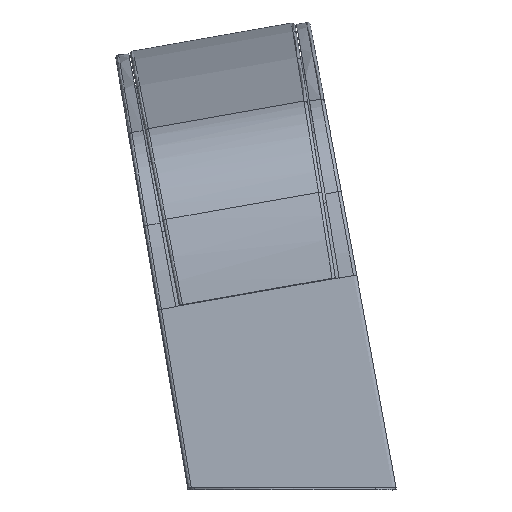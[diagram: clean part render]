
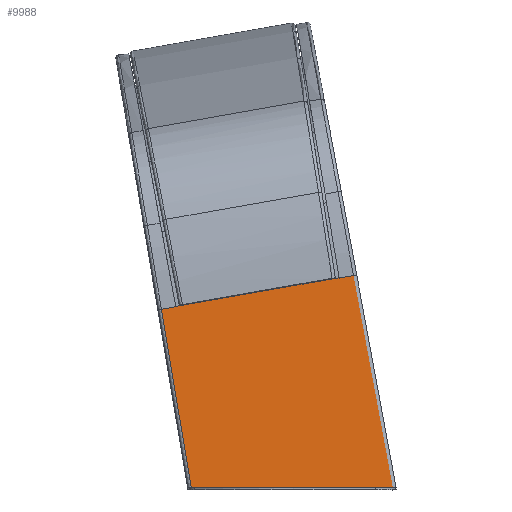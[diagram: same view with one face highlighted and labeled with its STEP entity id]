
A CAD part, top view. The second image highlights one B-rep face of the part: STEP entity #9988.
In plain terms, the highlighted planar face has unit normal (-0.008, 0.043, 0.999) as drawn and (0, 0.044, 0.999) by its records, which use the part's own axes.
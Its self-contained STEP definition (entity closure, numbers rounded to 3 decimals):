
#322 = DIRECTION ( 'NONE',  ( 0., 0.999, -0.044 ) ) ;
#463 = ORIENTED_EDGE ( 'NONE', *, *, #1201, .F. ) ;
#495 = CARTESIAN_POINT ( 'NONE',  ( -9.026, 20., 68.127 ) ) ;
#557 = VERTEX_POINT ( 'NONE', #3251 ) ;
#900 = LINE ( 'NONE', #15717, #7027 ) ;
#1021 = VECTOR ( 'NONE', #11669, 1000. ) ;
#1201 = EDGE_CURVE ( 'NONE', #2249, #2593, #12194, .T. ) ;
#1476 = EDGE_CURVE ( 'NONE', #12289, #13318, #14546, .T. ) ;
#2058 = DIRECTION ( 'NONE',  ( 0., 0.044, 0.999 ) ) ;
#2126 = CARTESIAN_POINT ( 'NONE',  ( 9.026, 20., 68.127 ) ) ;
#2249 = VERTEX_POINT ( 'NONE', #16339 ) ;
#2510 = EDGE_CURVE ( 'NONE', #13318, #5090, #900, .T. ) ;
#2593 = VERTEX_POINT ( 'NONE', #11046 ) ;
#2953 = LINE ( 'NONE', #6347, #6001 ) ;
#3141 = DIRECTION ( 'NONE',  ( -1., 0., 0. ) ) ;
#3251 = CARTESIAN_POINT ( 'NONE',  ( -9.025, 20., 68.127 ) ) ;
#3305 = ORIENTED_EDGE ( 'NONE', *, *, #13971, .F. ) ;
#3806 = DIRECTION ( 'NONE',  ( 1., 0., 0. ) ) ;
#4524 = VECTOR ( 'NONE', #11148, 1000. ) ;
#5090 = VERTEX_POINT ( 'NONE', #18183 ) ;
#5595 = VECTOR ( 'NONE', #10879, 1000. ) ;
#5967 = ORIENTED_EDGE ( 'NONE', *, *, #6485, .T. ) ;
#6001 = VECTOR ( 'NONE', #15293, 1000. ) ;
#6316 = PLANE ( 'NONE',  #16164 ) ;
#6347 = CARTESIAN_POINT ( 'NONE',  ( -8.926, 3.249, 68.858 ) ) ;
#6485 = EDGE_CURVE ( 'NONE', #9734, #15408, #13778, .T. ) ;
#6488 = CARTESIAN_POINT ( 'NONE',  ( -7.675, 20., 68.127 ) ) ;
#6569 = B_SPLINE_CURVE_WITH_KNOTS ( 'NONE', 3,
 ( #9721, #14320, #6621, #14181 ),
 .UNSPECIFIED., .F., .F.,
 ( 4, 4 ),
 ( 0., 0. ),
 .UNSPECIFIED. ) ;
#6621 = CARTESIAN_POINT ( 'NONE',  ( -9.026, 20., 68.127 ) ) ;
#6922 = ORIENTED_EDGE ( 'NONE', *, *, #13181, .T. ) ;
#7027 = VECTOR ( 'NONE', #3806, 1000. ) ;
#7643 = EDGE_CURVE ( 'NONE', #19231, #2593, #2953, .T. ) ;
#8636 = VECTOR ( 'NONE', #3141, 1000. ) ;
#8718 = CARTESIAN_POINT ( 'NONE',  ( 7.526, 3.007, 68.869 ) ) ;
#8834 = EDGE_CURVE ( 'NONE', #10731, #557, #6569, .T. ) ;
#8872 = DIRECTION ( 'NONE',  ( 0.009, -0.999, 0.044 ) ) ;
#8944 = EDGE_LOOP ( 'NONE', ( #14557, #463, #18187, #5967, #6922, #17269, #16377, #14290, #12946, #3305 ) ) ;
#9022 = LINE ( 'NONE', #12539, #4524 ) ;
#9721 = CARTESIAN_POINT ( 'NONE',  ( -9.026, 20., 68.127 ) ) ;
#9734 = VERTEX_POINT ( 'NONE', #19369 ) ;
#9885 = CARTESIAN_POINT ( 'NONE',  ( 9.026, 20., 68.127 ) ) ;
#9988 = ADVANCED_FACE ( 'NONE', ( #13305 ), #6316, .T. ) ;
#10318 = CARTESIAN_POINT ( 'NONE',  ( 9.199, 0.163, 68.993 ) ) ;
#10731 = VERTEX_POINT ( 'NONE', #495 ) ;
#10879 = DIRECTION ( 'NONE',  ( -0.009, 0.999, -0.044 ) ) ;
#11046 = CARTESIAN_POINT ( 'NONE',  ( 9.2, 0.053, 68.998 ) ) ;
#11148 = DIRECTION ( 'NONE',  ( 0.009, 0.999, -0.044 ) ) ;
#11669 = DIRECTION ( 'NONE',  ( 0.009, 0.999, -0.044 ) ) ;
#12076 = CARTESIAN_POINT ( 'NONE',  ( 7.675, 20., 68.127 ) ) ;
#12194 = LINE ( 'NONE', #10318, #19493 ) ;
#12289 = VERTEX_POINT ( 'NONE', #6488 ) ;
#12503 = CARTESIAN_POINT ( 'NONE',  ( -9.5, 0., 69. ) ) ;
#12539 = CARTESIAN_POINT ( 'NONE',  ( -9.2, -0.003, 69. ) ) ;
#12641 = CARTESIAN_POINT ( 'NONE',  ( 9.026, 20., 68.127 ) ) ;
#12946 = ORIENTED_EDGE ( 'NONE', *, *, #8834, .F. ) ;
#13026 = LINE ( 'NONE', #8718, #1021 ) ;
#13181 = EDGE_CURVE ( 'NONE', #15408, #5090, #13026, .T. ) ;
#13305 = FACE_OUTER_BOUND ( 'NONE', #8944, .T. ) ;
#13318 = VERTEX_POINT ( 'NONE', #16131 ) ;
#13778 = LINE ( 'NONE', #16628, #8636 ) ;
#13971 = EDGE_CURVE ( 'NONE', #19231, #10731, #9022, .T. ) ;
#14041 = CARTESIAN_POINT ( 'NONE',  ( -7.676, 20.18, 68.119 ) ) ;
#14181 = CARTESIAN_POINT ( 'NONE',  ( -9.025, 20., 68.127 ) ) ;
#14276 = CARTESIAN_POINT ( 'NONE',  ( 9.025, 20., 68.127 ) ) ;
#14290 = ORIENTED_EDGE ( 'NONE', *, *, #18218, .T. ) ;
#14320 = CARTESIAN_POINT ( 'NONE',  ( -9.026, 20., 68.127 ) ) ;
#14546 = LINE ( 'NONE', #14041, #5595 ) ;
#14557 = ORIENTED_EDGE ( 'NONE', *, *, #7643, .T. ) ;
#14733 = B_SPLINE_CURVE_WITH_KNOTS ( 'NONE', 3,
 ( #14276, #9885, #2126, #12641 ),
 .UNSPECIFIED., .F., .F.,
 ( 4, 4 ),
 ( 0., 0. ),
 .UNSPECIFIED. ) ;
#15293 = DIRECTION ( 'NONE',  ( 0.985, -0.174, 0.008 ) ) ;
#15408 = VERTEX_POINT ( 'NONE', #12076 ) ;
#15717 = CARTESIAN_POINT ( 'NONE',  ( -24.665, 20.032, 68.125 ) ) ;
#16131 = CARTESIAN_POINT ( 'NONE',  ( -7.675, 20.032, 68.125 ) ) ;
#16164 = AXIS2_PLACEMENT_3D ( 'NONE', #12503, #2058, #322 ) ;
#16258 = VECTOR ( 'NONE', #17502, 1000. ) ;
#16339 = CARTESIAN_POINT ( 'NONE',  ( 9.026, 20., 68.127 ) ) ;
#16377 = ORIENTED_EDGE ( 'NONE', *, *, #1476, .F. ) ;
#16497 = EDGE_CURVE ( 'NONE', #9734, #2249, #14733, .T. ) ;
#16628 = CARTESIAN_POINT ( 'NONE',  ( -9.5, 20., 68.127 ) ) ;
#16953 = LINE ( 'NONE', #19028, #16258 ) ;
#17179 = CARTESIAN_POINT ( 'NONE',  ( -9.171, 3.292, 68.856 ) ) ;
#17269 = ORIENTED_EDGE ( 'NONE', *, *, #2510, .F. ) ;
#17502 = DIRECTION ( 'NONE',  ( -1., 0., 0. ) ) ;
#18183 = CARTESIAN_POINT ( 'NONE',  ( 7.675, 20.032, 68.125 ) ) ;
#18187 = ORIENTED_EDGE ( 'NONE', *, *, #16497, .F. ) ;
#18218 = EDGE_CURVE ( 'NONE', #12289, #557, #16953, .T. ) ;
#19028 = CARTESIAN_POINT ( 'NONE',  ( -9.5, 20., 68.127 ) ) ;
#19231 = VERTEX_POINT ( 'NONE', #17179 ) ;
#19369 = CARTESIAN_POINT ( 'NONE',  ( 9.025, 20., 68.127 ) ) ;
#19493 = VECTOR ( 'NONE', #8872, 1000. ) ;
